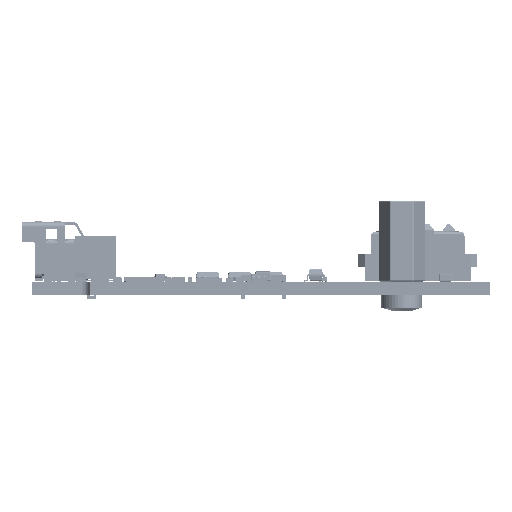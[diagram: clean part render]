
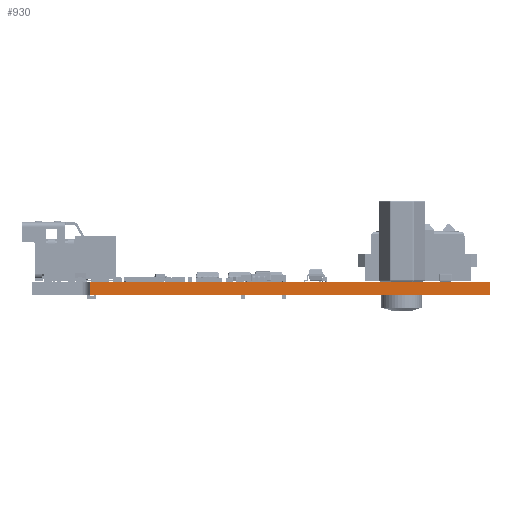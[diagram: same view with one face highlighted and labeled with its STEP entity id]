
A CAD part, front view. The second image highlights one B-rep face of the part: STEP entity #930.
In plain terms, the highlighted planar face has unit normal (0, -1, 0).
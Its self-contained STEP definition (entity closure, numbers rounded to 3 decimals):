
#905 = VERTEX_POINT('',#906);
#906 = CARTESIAN_POINT('',(76.5,0.,1.705));
#912 = EDGE_CURVE('',#913,#905,#915,.T.);
#913 = VERTEX_POINT('',#914);
#914 = CARTESIAN_POINT('',(76.5,0.,0.));
#915 = LINE('',#916,#917);
#916 = CARTESIAN_POINT('',(76.5,0.,0.));
#917 = VECTOR('',#918,1.);
#918 = DIRECTION('',(0.,0.,1.));
#930 = ADVANCED_FACE('',(#931),#956,.T.);
#931 = FACE_BOUND('',#932,.T.);
#932 = EDGE_LOOP('',(#933,#934,#942,#950));
#933 = ORIENTED_EDGE('',*,*,#912,.T.);
#934 = ORIENTED_EDGE('',*,*,#935,.T.);
#935 = EDGE_CURVE('',#905,#936,#938,.T.);
#936 = VERTEX_POINT('',#937);
#937 = CARTESIAN_POINT('',(27.1,0.,1.705));
#938 = LINE('',#939,#940);
#939 = CARTESIAN_POINT('',(76.5,0.,1.705));
#940 = VECTOR('',#941,1.);
#941 = DIRECTION('',(-1.,0.,0.));
#942 = ORIENTED_EDGE('',*,*,#943,.F.);
#943 = EDGE_CURVE('',#944,#936,#946,.T.);
#944 = VERTEX_POINT('',#945);
#945 = CARTESIAN_POINT('',(27.1,0.,0.));
#946 = LINE('',#947,#948);
#947 = CARTESIAN_POINT('',(27.1,0.,0.));
#948 = VECTOR('',#949,1.);
#949 = DIRECTION('',(0.,0.,1.));
#950 = ORIENTED_EDGE('',*,*,#951,.F.);
#951 = EDGE_CURVE('',#913,#944,#952,.T.);
#952 = LINE('',#953,#954);
#953 = CARTESIAN_POINT('',(76.5,0.,0.));
#954 = VECTOR('',#955,1.);
#955 = DIRECTION('',(-1.,0.,0.));
#956 = PLANE('',#957);
#957 = AXIS2_PLACEMENT_3D('',#958,#959,#960);
#958 = CARTESIAN_POINT('',(76.5,0.,0.));
#959 = DIRECTION('',(0.,-1.,0.));
#960 = DIRECTION('',(-1.,0.,0.));
